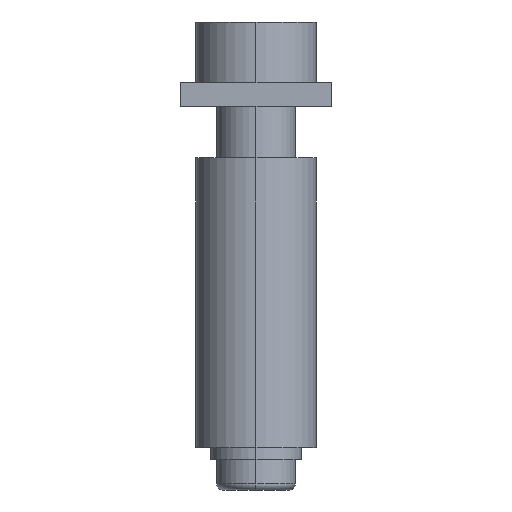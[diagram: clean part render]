
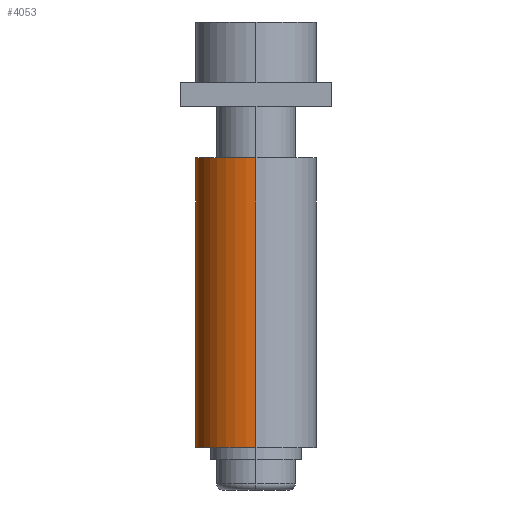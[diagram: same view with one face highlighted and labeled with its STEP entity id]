
A CAD part, left-side view. The second image highlights one B-rep face of the part: STEP entity #4053.
In plain terms, the highlighted cylindrical face has radius 2 mm (diameter 4 mm), a partial arc.
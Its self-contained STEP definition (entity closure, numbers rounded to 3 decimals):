
#3836=CARTESIAN_POINT('',(0.,0.,0.));
#3837=DIRECTION('',(0.,0.,1.));
#3838=DIRECTION('',(1.,0.,0.));
#3839=AXIS2_PLACEMENT_3D('',#3836,#3837,#3838);
#3882=CARTESIAN_POINT('',(0.,0.,9.6));
#3883=DIRECTION('',(0.,0.,1.));
#3884=DIRECTION('',(1.,0.,0.));
#3885=AXIS2_PLACEMENT_3D('',#3882,#3883,#3884);
#3902=DIRECTION('',(0.,0.,1.));
#3903=VECTOR('',#3902,9.6);
#3904=CARTESIAN_POINT('',(-2.,0.,0.));
#3905=LINE('',#3904,#3903);
#3906=DIRECTION('',(0.,0.,-1.));
#3907=VECTOR('',#3906,9.6);
#3908=CARTESIAN_POINT('',(2.,0.,9.6));
#3909=LINE('',#3908,#3907);
#3914=CARTESIAN_POINT('',(2.,0.,0.));
#3915=CARTESIAN_POINT('',(-2.,0.,0.));
#3916=VERTEX_POINT('',#3914);
#3917=VERTEX_POINT('',#3915);
#3922=CARTESIAN_POINT('',(2.,0.,9.6));
#3923=CARTESIAN_POINT('',(-2.,0.,9.6));
#3924=VERTEX_POINT('',#3922);
#3925=VERTEX_POINT('',#3923);
#4040=CARTESIAN_POINT('',(0.,0.,0.));
#4041=DIRECTION('',(0.,0.,1.));
#4042=DIRECTION('',(1.,0.,0.));
#4043=AXIS2_PLACEMENT_3D('',#4040,#4041,#4042);
#4044=CYLINDRICAL_SURFACE('',#4043,2.);
#4046=ORIENTED_EDGE('',*,*,#4045,.F.);
#4047=ORIENTED_EDGE('',*,*,#4029,.T.);
#4049=ORIENTED_EDGE('',*,*,#4048,.F.);
#4050=ORIENTED_EDGE('',*,*,#3939,.F.);
#4051=EDGE_LOOP('',(#4046,#4047,#4049,#4050));
#4052=FACE_OUTER_BOUND('',#4051,.F.);
#4053=ADVANCED_FACE('',(#4052),#4044,.T.);
#3840=CIRCLE('',#3839,2.);
#3886=CIRCLE('',#3885,2.);
#3939=EDGE_CURVE('',#3916,#3917,#3840,.T.);
#4029=EDGE_CURVE('',#3924,#3925,#3886,.T.);
#4045=EDGE_CURVE('',#3924,#3916,#3909,.T.);
#4048=EDGE_CURVE('',#3917,#3925,#3905,.T.);
